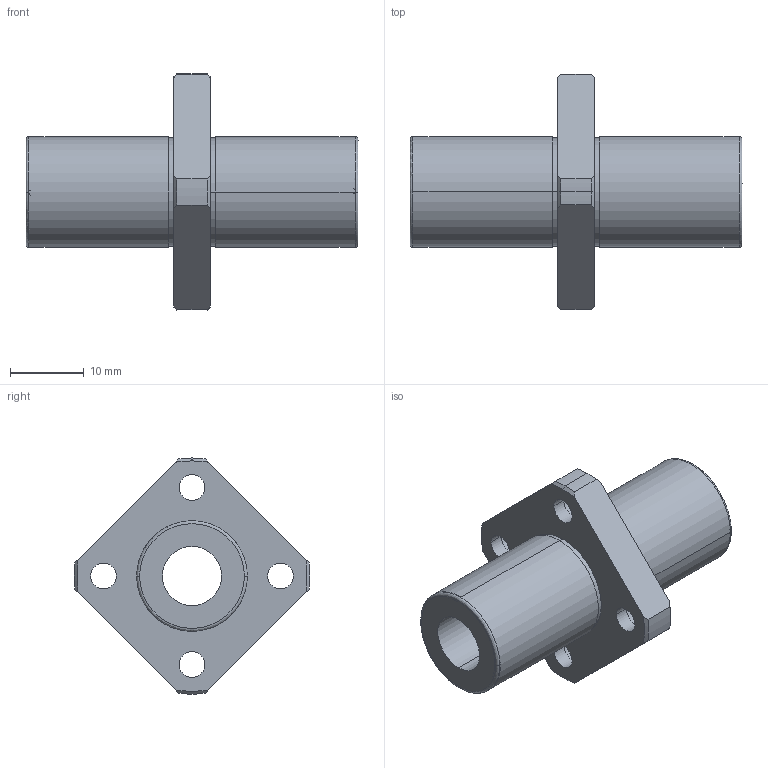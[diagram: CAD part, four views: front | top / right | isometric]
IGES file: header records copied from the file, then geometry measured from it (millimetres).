
Start section: 3D InterOp IGES (Version 21 0 1), Spatial Corp. Copyright (c) 1999-2007.
Global section: file name: NFCS-8VLUU.igs; native system: Spatial Corp.; preprocessor: 3D InterOp GENERIC/IGES 3.0; author: Noname; organization: Noname; date: 20220308.133728; units: millimetre
Bounding box: 45 x 31.98 x 31.99 mm (x, y, z)
Surface area: 5187.6 mm2 (no closed solid volume)
Topology: 0 solids, 0 shells, 59 faces, 296 edges, 292 vertices
Faces by surface type: revolution 45, extrusion 14
